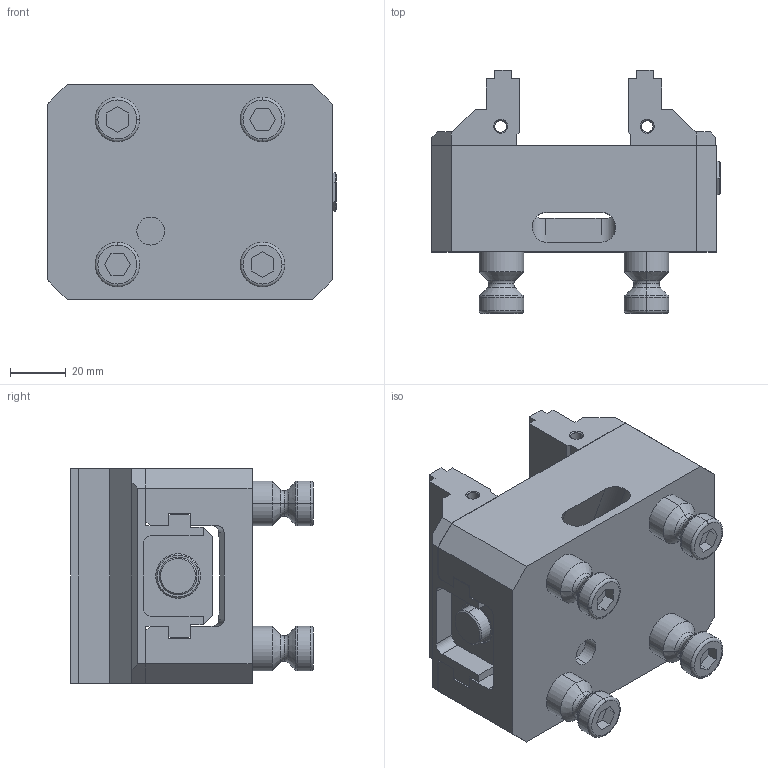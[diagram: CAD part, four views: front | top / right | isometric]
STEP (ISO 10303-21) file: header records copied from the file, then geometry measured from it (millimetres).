
FILE_DESCRIPTION (( 'STEP AP214' ), '1' );
FILE_NAME ('M52S-102.STEP', '2022-05-26T12:25:49', ( '' ), ( '' ), 'SwSTEP 2.0', 'SolidWorks 2018', '' );
FILE_SCHEMA (( 'AUTOMOTIVE_DESIGN' ));
Length unit declared in the file: millimetre
Products named in the file (1): M52S-102
Bounding box: 103.5 x 87 x 77 mm (x, y, z)
Surface area: 70379.4 mm2 (no closed solid volume)
Topology: 0 solids, 10 shells, 299 faces, 836 edges, 542 vertices
Faces by surface type: plane 181, cylinder 56, torus 32, cone 30
Entity records: 12901 total; most frequent: CARTESIAN_POINT 1922, DIRECTION 1586, ORIENTED_EDGE 1538, EDGE_CURVE 836, LINE 622, VECTOR 622, VERTEX_POINT 542, AXIS2_PLACEMENT_3D 482
